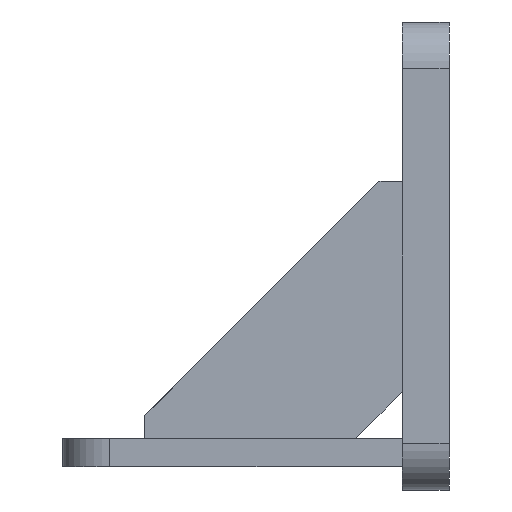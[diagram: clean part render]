
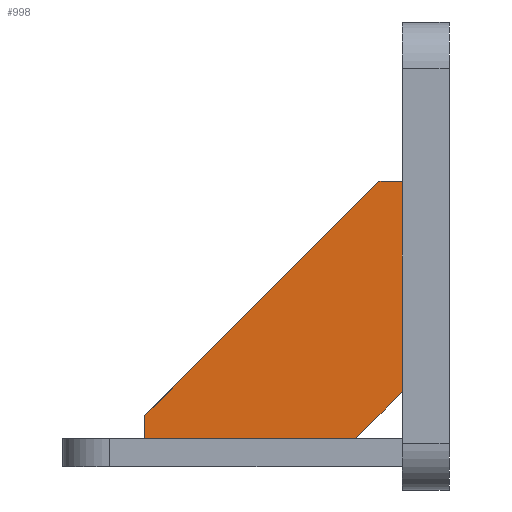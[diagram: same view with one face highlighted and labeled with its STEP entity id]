
A CAD part, left-side view. The second image highlights one B-rep face of the part: STEP entity #998.
In plain terms, the highlighted planar face has unit normal (-1, 0, 0).
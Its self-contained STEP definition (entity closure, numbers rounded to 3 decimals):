
#19 = EDGE_LOOP ( 'NONE', ( #155, #912, #98, #1668, #138, #1099 ) ) ;
#70 = EDGE_CURVE ( 'NONE', #1253, #337, #721, .T. ) ;
#89 = EDGE_CURVE ( 'NONE', #1027, #1472, #1644, .T. ) ;
#98 = ORIENTED_EDGE ( 'NONE', *, *, #971, .F. ) ;
#138 = ORIENTED_EDGE ( 'NONE', *, *, #1859, .F. ) ;
#142 = CARTESIAN_POINT ( 'NONE',  ( -118.235, 62., 11. ) ) ;
#150 = VECTOR ( 'NONE', #468, 1000. ) ;
#155 = ORIENTED_EDGE ( 'NONE', *, *, #1951, .F. ) ;
#172 = LINE ( 'NONE', #308, #323 ) ;
#194 = LINE ( 'NONE', #835, #1703 ) ;
#245 = DIRECTION ( 'NONE',  ( 0., 0., 1. ) ) ;
#286 = CARTESIAN_POINT ( 'NONE',  ( -118.235, 12., 61. ) ) ;
#308 = CARTESIAN_POINT ( 'NONE',  ( -118.235, 67., 6. ) ) ;
#323 = VECTOR ( 'NONE', #645, 1000. ) ;
#337 = VERTEX_POINT ( 'NONE', #798 ) ;
#366 = EDGE_CURVE ( 'NONE', #666, #638, #172, .T. ) ;
#387 = DIRECTION ( 'NONE',  ( 0., 0., -1. ) ) ;
#468 = DIRECTION ( 'NONE',  ( 0., -1., 0. ) ) ;
#541 = CARTESIAN_POINT ( 'NONE',  ( -118.235, 17., 6. ) ) ;
#570 = CARTESIAN_POINT ( 'NONE',  ( -118.235, 7., 16. ) ) ;
#638 = VERTEX_POINT ( 'NONE', #286 ) ;
#645 = DIRECTION ( 'NONE',  ( 0., -0.707, 0.707 ) ) ;
#666 = VERTEX_POINT ( 'NONE', #142 ) ;
#714 = FACE_OUTER_BOUND ( 'NONE', #19, .T. ) ;
#721 = LINE ( 'NONE', #1494, #2016 ) ;
#724 = DIRECTION ( 'NONE',  ( -1., 0., 0. ) ) ;
#740 = CARTESIAN_POINT ( 'NONE',  ( -118.235, 62., 6. ) ) ;
#798 = CARTESIAN_POINT ( 'NONE',  ( -118.235, 7., 16. ) ) ;
#827 = DIRECTION ( 'NONE',  ( 0., 0., 1. ) ) ;
#835 = CARTESIAN_POINT ( 'NONE',  ( -118.235, 62., 6. ) ) ;
#912 = ORIENTED_EDGE ( 'NONE', *, *, #89, .F. ) ;
#971 = EDGE_CURVE ( 'NONE', #337, #1027, #1012, .T. ) ;
#998 = ADVANCED_FACE ( 'NONE', ( #714 ), #1056, .T. ) ;
#1012 = LINE ( 'NONE', #570, #1145 ) ;
#1027 = VERTEX_POINT ( 'NONE', #541 ) ;
#1056 = PLANE ( 'NONE',  #1413 ) ;
#1099 = ORIENTED_EDGE ( 'NONE', *, *, #366, .F. ) ;
#1145 = VECTOR ( 'NONE', #1183, 1000. ) ;
#1172 = CARTESIAN_POINT ( 'NONE',  ( -118.235, 0., 0. ) ) ;
#1183 = DIRECTION ( 'NONE',  ( 0., 0.707, -0.707 ) ) ;
#1188 = DIRECTION ( 'NONE',  ( 0., 1., 0. ) ) ;
#1253 = VERTEX_POINT ( 'NONE', #1693 ) ;
#1392 = VECTOR ( 'NONE', #1188, 1000. ) ;
#1399 = LINE ( 'NONE', #1562, #150 ) ;
#1413 = AXIS2_PLACEMENT_3D ( 'NONE', #1172, #724, #245 ) ;
#1472 = VERTEX_POINT ( 'NONE', #740 ) ;
#1494 = CARTESIAN_POINT ( 'NONE',  ( -118.235, 7., 66. ) ) ;
#1562 = CARTESIAN_POINT ( 'NONE',  ( -118.235, 12., 61. ) ) ;
#1644 = LINE ( 'NONE', #1807, #1392 ) ;
#1668 = ORIENTED_EDGE ( 'NONE', *, *, #70, .F. ) ;
#1693 = CARTESIAN_POINT ( 'NONE',  ( -118.235, 7., 61. ) ) ;
#1703 = VECTOR ( 'NONE', #827, 1000. ) ;
#1807 = CARTESIAN_POINT ( 'NONE',  ( -118.235, 17., 6. ) ) ;
#1859 = EDGE_CURVE ( 'NONE', #638, #1253, #1399, .T. ) ;
#1951 = EDGE_CURVE ( 'NONE', #1472, #666, #194, .T. ) ;
#2016 = VECTOR ( 'NONE', #387, 1000. ) ;
